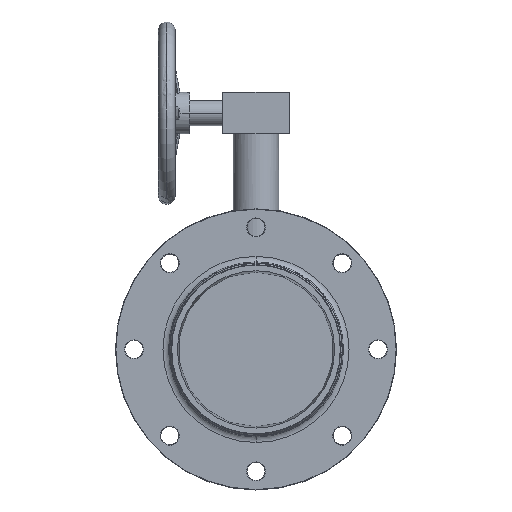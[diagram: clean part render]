
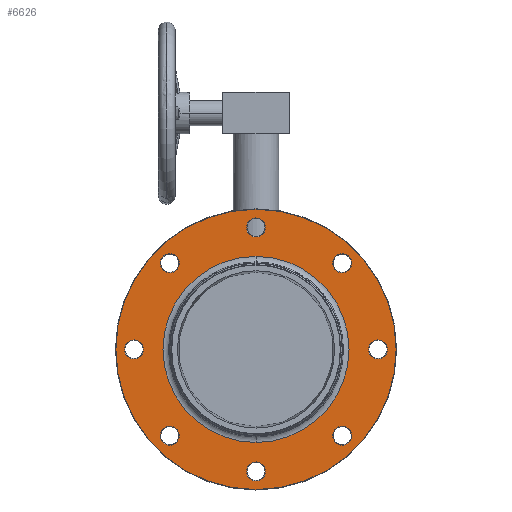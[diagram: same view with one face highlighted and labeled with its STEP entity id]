
A CAD part, front view. The second image highlights one B-rep face of the part: STEP entity #6626.
In plain terms, the highlighted planar face has unit normal (0, -1, 0).
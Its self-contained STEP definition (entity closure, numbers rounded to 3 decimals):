
#1990=CARTESIAN_POINT('',(0.,-57.829,0.));
#1991=DIRECTION('',(0.,-1.,0.));
#1992=DIRECTION('',(0.,0.,-1.));
#1993=AXIS2_PLACEMENT_3D('',#1990,#1991,#1992);
#1998=CARTESIAN_POINT('',(0.,-57.829,0.));
#1999=DIRECTION('',(0.,-1.,0.));
#2000=DIRECTION('',(0.,0.,1.));
#2001=AXIS2_PLACEMENT_3D('',#1998,#1999,#2000);
#2006=CARTESIAN_POINT('',(-147.139,-57.829,0.));
#2007=DIRECTION('',(0.,1.,0.));
#2008=DIRECTION('',(0.,0.,-1.));
#2009=AXIS2_PLACEMENT_3D('',#2006,#2007,#2008);
#2014=CARTESIAN_POINT('',(-147.139,-57.829,0.));
#2015=DIRECTION('',(0.,1.,0.));
#2016=DIRECTION('',(0.,0.,1.));
#2017=AXIS2_PLACEMENT_3D('',#2014,#2015,#2016);
#2022=CARTESIAN_POINT('',(-104.043,-57.829,
104.043));
#2023=DIRECTION('',(0.,1.,0.));
#2024=DIRECTION('',(0.,0.,-1.));
#2025=AXIS2_PLACEMENT_3D('',#2022,#2023,#2024);
#2030=CARTESIAN_POINT('',(-104.043,-57.829,
104.043));
#2031=DIRECTION('',(0.,1.,0.));
#2032=DIRECTION('',(0.,0.,1.));
#2033=AXIS2_PLACEMENT_3D('',#2030,#2031,#2032);
#2038=CARTESIAN_POINT('',(0.,-57.829,
147.139));
#2039=DIRECTION('',(0.,1.,0.));
#2040=DIRECTION('',(0.,0.,-1.));
#2041=AXIS2_PLACEMENT_3D('',#2038,#2039,#2040);
#2046=CARTESIAN_POINT('',(0.,-57.829,
147.139));
#2047=DIRECTION('',(0.,1.,0.));
#2048=DIRECTION('',(0.,0.,1.));
#2049=AXIS2_PLACEMENT_3D('',#2046,#2047,#2048);
#2054=CARTESIAN_POINT('',(104.043,-57.829,104.043));
#2055=DIRECTION('',(0.,1.,0.));
#2056=DIRECTION('',(0.,0.,-1.));
#2057=AXIS2_PLACEMENT_3D('',#2054,#2055,#2056);
#2062=CARTESIAN_POINT('',(104.043,-57.829,104.043));
#2063=DIRECTION('',(0.,1.,0.));
#2064=DIRECTION('',(0.,0.,1.));
#2065=AXIS2_PLACEMENT_3D('',#2062,#2063,#2064);
#2070=CARTESIAN_POINT('',(147.139,-57.829,
0.));
#2071=DIRECTION('',(0.,1.,0.));
#2072=DIRECTION('',(0.,0.,-1.));
#2073=AXIS2_PLACEMENT_3D('',#2070,#2071,#2072);
#2078=CARTESIAN_POINT('',(147.139,-57.829,
0.));
#2079=DIRECTION('',(0.,1.,0.));
#2080=DIRECTION('',(0.,0.,1.));
#2081=AXIS2_PLACEMENT_3D('',#2078,#2079,#2080);
#2086=CARTESIAN_POINT('',(104.043,-57.829,
-104.043));
#2087=DIRECTION('',(0.,1.,0.));
#2088=DIRECTION('',(0.,0.,-1.));
#2089=AXIS2_PLACEMENT_3D('',#2086,#2087,#2088);
#2094=CARTESIAN_POINT('',(104.043,-57.829,
-104.043));
#2095=DIRECTION('',(0.,1.,0.));
#2096=DIRECTION('',(0.,0.,1.));
#2097=AXIS2_PLACEMENT_3D('',#2094,#2095,#2096);
#2102=CARTESIAN_POINT('',(0.,-57.829,
-147.139));
#2103=DIRECTION('',(0.,1.,0.));
#2104=DIRECTION('',(0.,0.,-1.));
#2105=AXIS2_PLACEMENT_3D('',#2102,#2103,#2104);
#2110=CARTESIAN_POINT('',(0.,-57.829,
-147.139));
#2111=DIRECTION('',(0.,1.,0.));
#2112=DIRECTION('',(0.,0.,1.));
#2113=AXIS2_PLACEMENT_3D('',#2110,#2111,#2112);
#2118=CARTESIAN_POINT('',(-104.043,-57.829,
-104.043));
#2119=DIRECTION('',(0.,1.,0.));
#2120=DIRECTION('',(0.,0.,-1.));
#2121=AXIS2_PLACEMENT_3D('',#2118,#2119,#2120);
#2126=CARTESIAN_POINT('',(-104.043,-57.829,
-104.043));
#2127=DIRECTION('',(0.,1.,0.));
#2128=DIRECTION('',(0.,0.,1.));
#2129=AXIS2_PLACEMENT_3D('',#2126,#2127,#2128);
#2134=CARTESIAN_POINT('',(0.,-57.829,0.));
#2135=DIRECTION('',(0.,1.,0.));
#2136=DIRECTION('',(0.,0.,1.));
#2137=AXIS2_PLACEMENT_3D('',#2134,#2135,#2136);
#2142=CARTESIAN_POINT('',(0.,-57.829,0.));
#2143=DIRECTION('',(0.,1.,0.));
#2144=DIRECTION('',(0.,0.,-1.));
#2145=AXIS2_PLACEMENT_3D('',#2142,#2143,#2144);
#4773=CARTESIAN_POINT('',(0.,-57.829,112.225));
#4774=CARTESIAN_POINT('',(0.,-57.829,
-112.225));
#4775=VERTEX_POINT('',#4773);
#4776=VERTEX_POINT('',#4774);
#4777=CARTESIAN_POINT('',(0.,-57.829,-169.086));
#4778=CARTESIAN_POINT('',(0.,-57.829,
169.086));
#4779=VERTEX_POINT('',#4777);
#4780=VERTEX_POINT('',#4778);
#4781=CARTESIAN_POINT('',(-147.139,-57.829,-11.472));
#4782=CARTESIAN_POINT('',(-147.139,-57.829,11.472));
#4783=VERTEX_POINT('',#4781);
#4784=VERTEX_POINT('',#4782);
#4785=CARTESIAN_POINT('',(-104.043,-57.829,
92.571));
#4786=CARTESIAN_POINT('',(-104.043,-57.829,
115.515));
#4787=VERTEX_POINT('',#4785);
#4788=VERTEX_POINT('',#4786);
#4789=CARTESIAN_POINT('',(0.,-57.829,
135.667));
#4790=CARTESIAN_POINT('',(0.,-57.829,
158.611));
#4791=VERTEX_POINT('',#4789);
#4792=VERTEX_POINT('',#4790);
#4793=CARTESIAN_POINT('',(104.043,-57.829,92.571));
#4794=CARTESIAN_POINT('',(104.043,-57.829,115.515));
#4795=VERTEX_POINT('',#4793);
#4796=VERTEX_POINT('',#4794);
#4797=CARTESIAN_POINT('',(147.139,-57.829,-11.472));
#4798=CARTESIAN_POINT('',(147.139,-57.829,11.472));
#4799=VERTEX_POINT('',#4797);
#4800=VERTEX_POINT('',#4798);
#4801=CARTESIAN_POINT('',(104.043,-57.829,
-115.515));
#4802=CARTESIAN_POINT('',(104.043,-57.829,
-92.571));
#4803=VERTEX_POINT('',#4801);
#4804=VERTEX_POINT('',#4802);
#4805=CARTESIAN_POINT('',(0.,-57.829,
-158.611));
#4806=CARTESIAN_POINT('',(0.,-57.829,
-135.667));
#4807=VERTEX_POINT('',#4805);
#4808=VERTEX_POINT('',#4806);
#4809=CARTESIAN_POINT('',(-104.043,-57.829,
-115.515));
#4810=CARTESIAN_POINT('',(-104.043,-57.829,
-92.571));
#4811=VERTEX_POINT('',#4809);
#4812=VERTEX_POINT('',#4810);
#6562=CARTESIAN_POINT('',(-136.166,-57.829,0.));
#6563=DIRECTION('',(0.,1.,0.));
#6564=DIRECTION('',(0.,0.,1.));
#6565=AXIS2_PLACEMENT_3D('',#6562,#6563,#6564);
#6566=PLANE('',#6565);
#6568=ORIENTED_EDGE('',*,*,#6567,.F.);
#6569=ORIENTED_EDGE('',*,*,#6552,.F.);
#6570=EDGE_LOOP('',(#6568,#6569));
#6571=FACE_OUTER_BOUND('',#6570,.F.);
#6573=ORIENTED_EDGE('',*,*,#6572,.F.);
#6575=ORIENTED_EDGE('',*,*,#6574,.F.);
#6576=EDGE_LOOP('',(#6573,#6575));
#6577=FACE_BOUND('',#6576,.F.);
#6579=ORIENTED_EDGE('',*,*,#6578,.F.);
#6581=ORIENTED_EDGE('',*,*,#6580,.F.);
#6582=EDGE_LOOP('',(#6579,#6581));
#6583=FACE_BOUND('',#6582,.F.);
#6585=ORIENTED_EDGE('',*,*,#6584,.F.);
#6587=ORIENTED_EDGE('',*,*,#6586,.F.);
#6588=EDGE_LOOP('',(#6585,#6587));
#6589=FACE_BOUND('',#6588,.F.);
#6591=ORIENTED_EDGE('',*,*,#6590,.F.);
#6593=ORIENTED_EDGE('',*,*,#6592,.F.);
#6594=EDGE_LOOP('',(#6591,#6593));
#6595=FACE_BOUND('',#6594,.F.);
#6597=ORIENTED_EDGE('',*,*,#6596,.F.);
#6599=ORIENTED_EDGE('',*,*,#6598,.F.);
#6600=EDGE_LOOP('',(#6597,#6599));
#6601=FACE_BOUND('',#6600,.F.);
#6603=ORIENTED_EDGE('',*,*,#6602,.F.);
#6605=ORIENTED_EDGE('',*,*,#6604,.F.);
#6606=EDGE_LOOP('',(#6603,#6605));
#6607=FACE_BOUND('',#6606,.F.);
#6609=ORIENTED_EDGE('',*,*,#6608,.F.);
#6611=ORIENTED_EDGE('',*,*,#6610,.F.);
#6612=EDGE_LOOP('',(#6609,#6611));
#6613=FACE_BOUND('',#6612,.F.);
#6615=ORIENTED_EDGE('',*,*,#6614,.F.);
#6617=ORIENTED_EDGE('',*,*,#6616,.F.);
#6618=EDGE_LOOP('',(#6615,#6617));
#6619=FACE_BOUND('',#6618,.F.);
#6621=ORIENTED_EDGE('',*,*,#6620,.F.);
#6623=ORIENTED_EDGE('',*,*,#6622,.F.);
#6624=EDGE_LOOP('',(#6621,#6623));
#6625=FACE_BOUND('',#6624,.F.);
#1994=CIRCLE('',#1993,169.086);
#2002=CIRCLE('',#2001,169.086);
#2010=CIRCLE('',#2009,11.472);
#2018=CIRCLE('',#2017,11.472);
#2026=CIRCLE('',#2025,11.472);
#2034=CIRCLE('',#2033,11.472);
#2042=CIRCLE('',#2041,11.472);
#2050=CIRCLE('',#2049,11.472);
#2058=CIRCLE('',#2057,11.472);
#2066=CIRCLE('',#2065,11.472);
#2074=CIRCLE('',#2073,11.472);
#2082=CIRCLE('',#2081,11.472);
#2090=CIRCLE('',#2089,11.472);
#2098=CIRCLE('',#2097,11.472);
#2106=CIRCLE('',#2105,11.472);
#2114=CIRCLE('',#2113,11.472);
#2122=CIRCLE('',#2121,11.472);
#2130=CIRCLE('',#2129,11.472);
#2138=CIRCLE('',#2137,112.225);
#2146=CIRCLE('',#2145,112.225);
#6552=EDGE_CURVE('',#4780,#4779,#2002,.T.);
#6567=EDGE_CURVE('',#4779,#4780,#1994,.T.);
#6572=EDGE_CURVE('',#4783,#4784,#2010,.T.);
#6574=EDGE_CURVE('',#4784,#4783,#2018,.T.);
#6578=EDGE_CURVE('',#4787,#4788,#2026,.T.);
#6580=EDGE_CURVE('',#4788,#4787,#2034,.T.);
#6584=EDGE_CURVE('',#4791,#4792,#2042,.T.);
#6586=EDGE_CURVE('',#4792,#4791,#2050,.T.);
#6590=EDGE_CURVE('',#4795,#4796,#2058,.T.);
#6592=EDGE_CURVE('',#4796,#4795,#2066,.T.);
#6596=EDGE_CURVE('',#4799,#4800,#2074,.T.);
#6598=EDGE_CURVE('',#4800,#4799,#2082,.T.);
#6602=EDGE_CURVE('',#4803,#4804,#2090,.T.);
#6604=EDGE_CURVE('',#4804,#4803,#2098,.T.);
#6608=EDGE_CURVE('',#4807,#4808,#2106,.T.);
#6610=EDGE_CURVE('',#4808,#4807,#2114,.T.);
#6614=EDGE_CURVE('',#4811,#4812,#2122,.T.);
#6616=EDGE_CURVE('',#4812,#4811,#2130,.T.);
#6620=EDGE_CURVE('',#4775,#4776,#2138,.T.);
#6622=EDGE_CURVE('',#4776,#4775,#2146,.T.);
#6626=ADVANCED_FACE('',(#6571,#6577,#6583,#6589,#6595,#6601,#6607,#6613,#6619,
#6625),#6566,.F.);
